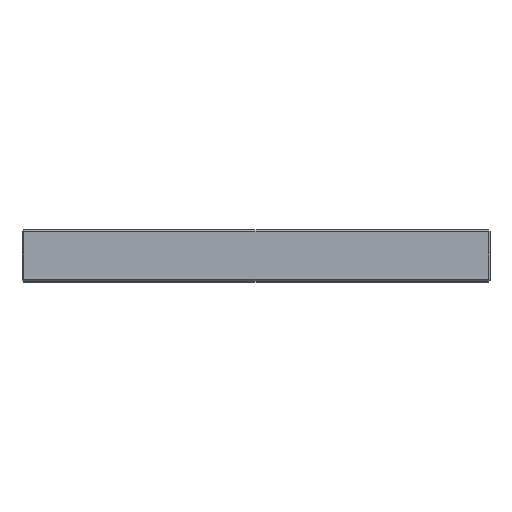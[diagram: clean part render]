
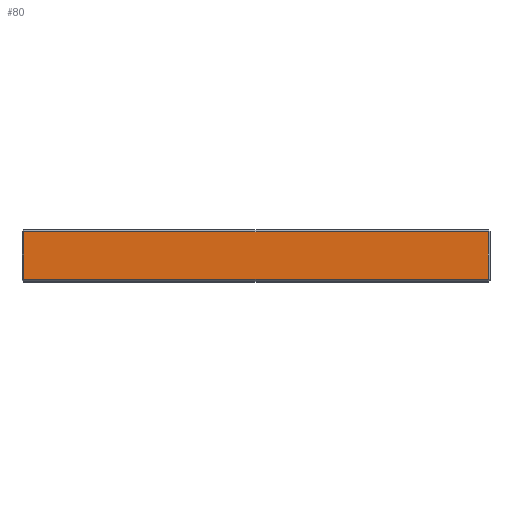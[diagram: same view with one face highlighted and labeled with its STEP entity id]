
A CAD part, top view. The second image highlights one B-rep face of the part: STEP entity #80.
In plain terms, the highlighted planar face has unit normal (0, 0, 1).
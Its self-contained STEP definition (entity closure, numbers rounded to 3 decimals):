
#80 = ADVANCED_FACE ( 'NONE', ( #2159 ), #420, .F. ) ;
#128 = CARTESIAN_POINT ( 'NONE',  ( 122., 1., 148. ) ) ;
#177 = DIRECTION ( 'NONE',  ( 1., 0., 0. ) ) ;
#227 = EDGE_CURVE ( 'NONE', #1369, #523, #1277, .T. ) ;
#242 = EDGE_CURVE ( 'NONE', #1307, #1369, #1578, .T. ) ;
#259 = EDGE_CURVE ( 'NONE', #2192, #1307, #1159, .T. ) ;
#262 = EDGE_CURVE ( 'NONE', #523, #2192, #1165, .T. ) ;
#420 = PLANE ( 'NONE',  #2022 ) ;
#523 = VERTEX_POINT ( 'NONE', #1839 ) ;
#537 = CARTESIAN_POINT ( 'NONE',  ( 122., 27., 148. ) ) ;
#754 = DIRECTION ( 'NONE',  ( 0., 1., 0. ) ) ;
#1093 = VECTOR ( 'NONE', #1705, 1000. ) ;
#1112 = DIRECTION ( 'NONE',  ( -1., 0., 0. ) ) ;
#1159 = LINE ( 'NONE', #2094, #1222 ) ;
#1163 = VECTOR ( 'NONE', #177, 1000. ) ;
#1165 = LINE ( 'NONE', #1524, #1093 ) ;
#1222 = VECTOR ( 'NONE', #1538, 1000. ) ;
#1227 = VECTOR ( 'NONE', #754, 1000. ) ;
#1272 = CARTESIAN_POINT ( 'NONE',  ( 123., 1., 148. ) ) ;
#1277 = LINE ( 'NONE', #537, #1227 ) ;
#1303 = DIRECTION ( 'NONE',  ( 0., 0., -1. ) ) ;
#1307 = VERTEX_POINT ( 'NONE', #2033 ) ;
#1369 = VERTEX_POINT ( 'NONE', #128 ) ;
#1414 = ORIENTED_EDGE ( 'NONE', *, *, #262, .T. ) ;
#1464 = ORIENTED_EDGE ( 'NONE', *, *, #259, .T. ) ;
#1467 = ORIENTED_EDGE ( 'NONE', *, *, #242, .T. ) ;
#1469 = ORIENTED_EDGE ( 'NONE', *, *, #227, .T. ) ;
#1524 = CARTESIAN_POINT ( 'NONE',  ( -123., 26., 148. ) ) ;
#1538 = DIRECTION ( 'NONE',  ( 0., -1., 0. ) ) ;
#1578 = LINE ( 'NONE', #1272, #1163 ) ;
#1705 = DIRECTION ( 'NONE',  ( -1., 0., 0. ) ) ;
#1839 = CARTESIAN_POINT ( 'NONE',  ( 122., 26., 148. ) ) ;
#1987 = CARTESIAN_POINT ( 'NONE',  ( 123., 27., 148. ) ) ;
#2002 = CARTESIAN_POINT ( 'NONE',  ( -122., 26., 148. ) ) ;
#2022 = AXIS2_PLACEMENT_3D ( 'NONE', #1987, #1303, #1112 ) ;
#2033 = CARTESIAN_POINT ( 'NONE',  ( -122., 1., 148. ) ) ;
#2094 = CARTESIAN_POINT ( 'NONE',  ( -122., 27., 148. ) ) ;
#2149 = EDGE_LOOP ( 'NONE', ( #1414, #1464, #1467, #1469 ) ) ;
#2159 = FACE_OUTER_BOUND ( 'NONE', #2149, .T. ) ;
#2192 = VERTEX_POINT ( 'NONE', #2002 ) ;
